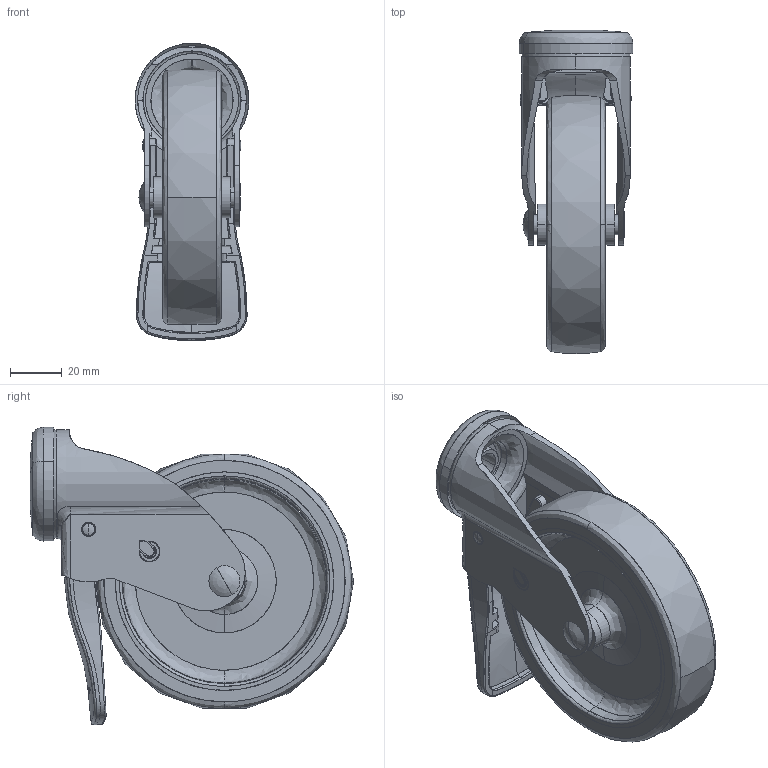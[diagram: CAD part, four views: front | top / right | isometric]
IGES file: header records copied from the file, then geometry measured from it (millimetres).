
Start section: SolidWorks IGES file using analytic representation for surfaces
Global section: file name: S:\Tyokansio\ML\3DWEBMALLIT\E\EI-PTE\IGES\200309_IGES.IGS; native system: SolidWorks 2011; preprocessor: SolidWorks 2011; author: markola; date: 140612.124649; units: millimetre
Bounding box: 44 x 124.9 x 115.01 mm (x, y, z)
Surface area: 76389.3 mm2 (no closed solid volume)
Topology: 0 solids, 0 shells, 639 faces, 7743 edges, 7656 vertices
Faces by surface type: bspline 437, revolution 202
